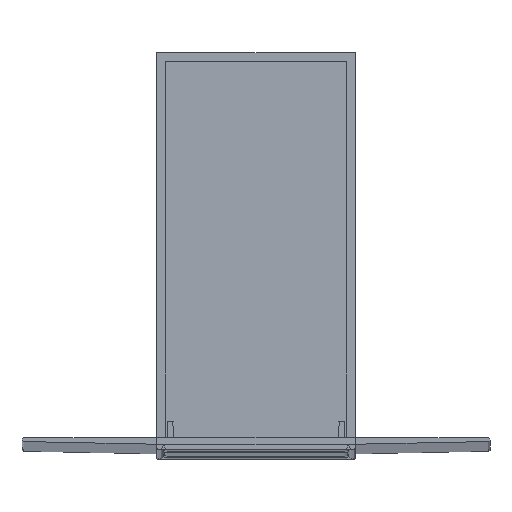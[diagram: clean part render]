
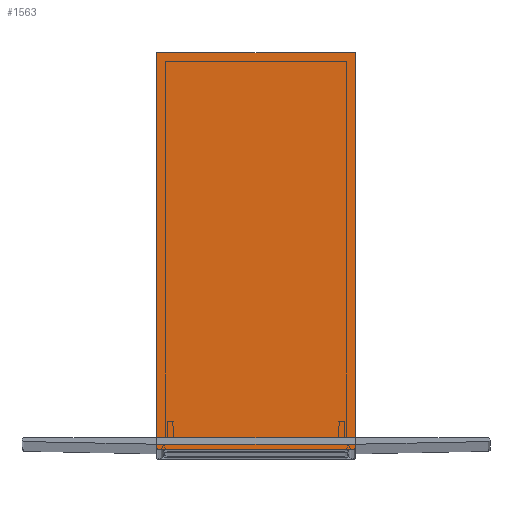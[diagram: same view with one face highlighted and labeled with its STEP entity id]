
A CAD part, top view. The second image highlights one B-rep face of the part: STEP entity #1563.
In plain terms, the highlighted planar face has unit normal (0, 0, 1).
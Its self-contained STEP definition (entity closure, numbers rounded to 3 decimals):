
#710=LINE('',#8272,#990);
#711=LINE('',#8277,#991);
#712=LINE('',#8279,#992);
#713=LINE('',#8281,#993);
#990=VECTOR('',#5296,1.);
#991=VECTOR('',#5299,1.);
#992=VECTOR('',#5300,1.);
#993=VECTOR('',#5301,1.);
#1563=ADVANCED_FACE('',(#1831),#1651,.T.);
#1651=PLANE('',#4460);
#1831=FACE_OUTER_BOUND('',#2127,.T.);
#2127=EDGE_LOOP('',(#2980,#2981,#2982,#2983,#2984,#2985));
#2980=ORIENTED_EDGE('',*,*,#3930,.T.);
#2981=ORIENTED_EDGE('',*,*,#3931,.T.);
#2982=ORIENTED_EDGE('',*,*,#3932,.T.);
#2983=ORIENTED_EDGE('',*,*,#3933,.T.);
#2984=ORIENTED_EDGE('',*,*,#3934,.T.);
#2985=ORIENTED_EDGE('',*,*,#3935,.T.);
#3452=VERTEX_POINT('',#8273);
#3453=VERTEX_POINT('',#8274);
#3454=VERTEX_POINT('',#8276);
#3455=VERTEX_POINT('',#8278);
#3456=VERTEX_POINT('',#8280);
#3457=VERTEX_POINT('',#8282);
#3930=EDGE_CURVE('',#3452,#3453,#710,.T.);
#3931=EDGE_CURVE('',#3453,#3454,#4164,.T.);
#3932=EDGE_CURVE('',#3454,#3455,#711,.T.);
#3933=EDGE_CURVE('',#3455,#3456,#712,.T.);
#3934=EDGE_CURVE('',#3456,#3457,#713,.T.);
#3935=EDGE_CURVE('',#3457,#3452,#4165,.T.);
#4164=CIRCLE('',#4458,0.2);
#4165=CIRCLE('',#4459,0.2);
#4458=AXIS2_PLACEMENT_3D('',#8275,#5297,#5298);
#4459=AXIS2_PLACEMENT_3D('',#8283,#5302,#5303);
#4460=AXIS2_PLACEMENT_3D('',#8284,#5304,#5305);
#5296=DIRECTION('',(1.,0.,0.));
#5297=DIRECTION('',(0.,0.,1.));
#5298=DIRECTION('',(1.,0.,0.));
#5299=DIRECTION('',(0.,1.,0.));
#5300=DIRECTION('',(-1.,0.,0.));
#5301=DIRECTION('',(0.,-1.,0.));
#5302=DIRECTION('',(0.,0.,1.));
#5303=DIRECTION('',(1.,0.,0.));
#5304=DIRECTION('',(0.,0.,1.));
#5305=DIRECTION('',(1.,0.,0.));
#8272=CARTESIAN_POINT('',(22.5,0.,2.));
#8273=CARTESIAN_POINT('',(-21.1,0.,2.));
#8274=CARTESIAN_POINT('',(21.1,0.,2.));
#8275=CARTESIAN_POINT('',(21.1,0.2,2.));
#8276=CARTESIAN_POINT('',(21.3,0.2,2.));
#8277=CARTESIAN_POINT('',(21.3,9.3,2.));
#8278=CARTESIAN_POINT('',(21.3,85.,2.));
#8279=CARTESIAN_POINT('',(22.5,85.,2.));
#8280=CARTESIAN_POINT('',(-21.3,85.,2.));
#8281=CARTESIAN_POINT('',(-21.3,9.3,2.));
#8282=CARTESIAN_POINT('',(-21.3,0.2,2.));
#8283=CARTESIAN_POINT('',(-21.1,0.2,2.));
#8284=CARTESIAN_POINT('',(22.5,9.3,2.));
